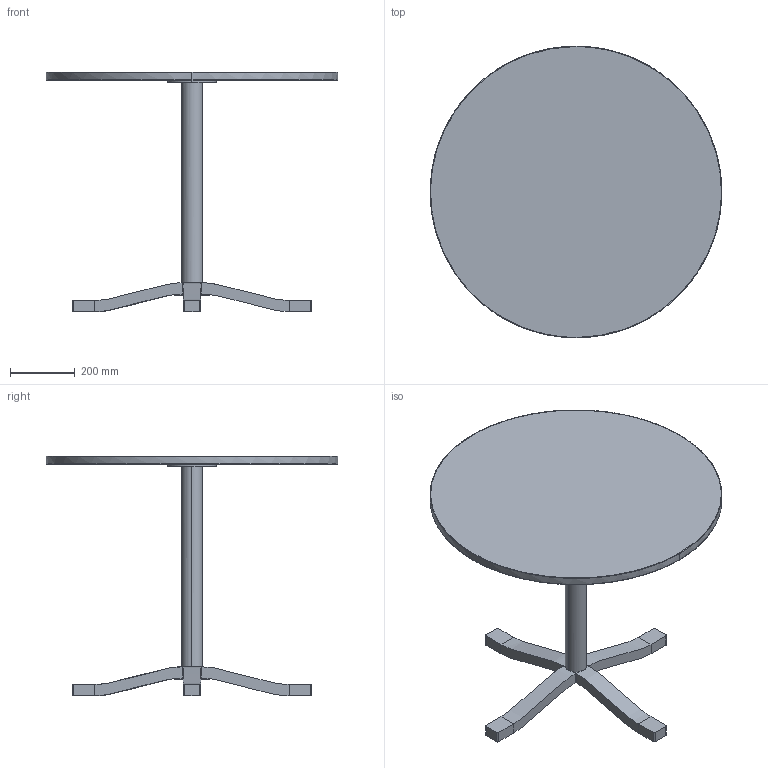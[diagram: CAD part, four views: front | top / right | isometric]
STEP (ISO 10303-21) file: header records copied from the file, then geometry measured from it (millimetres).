
FILE_DESCRIPTION(/* description */ (''),/* implementation_level */ '2;1');
FILE_NAME(/* name */ 'Pastis table 90 - 3D_intel use',/* time_stamp */ '2022-02-23T09:06:42+01:00',/* author */ (''),/* organization */ (''),/* preprocessor_version */ 'ST-DEVELOPER v16.5',/* originating_system */ '',/* authorisation */ '');
FILE_SCHEMA (('AUTOMOTIVE_DESIGN'));
Length unit declared in the file: millimetre
Products named in the file (1): Document
Bounding box: 899.88 x 900 x 740 mm (x, y, z)
Volume: 20893523.2 mm3; surface area: 1731476.4 mm2
Topology: 1 solids, 1 shells, 108 faces, 232 edges, 132 vertices
Faces by surface type: plane 62, bspline 46
Entity records: 7302 total; most frequent: CARTESIAN_POINT 5796, ORIENTED_EDGE 464, EDGE_CURVE 232, VERTEX_POINT 132, EDGE_LOOP 114, B_SPLINE_CURVE_WITH_KNOTS 113, ADVANCED_FACE 108, FACE_OUTER_BOUND 108
